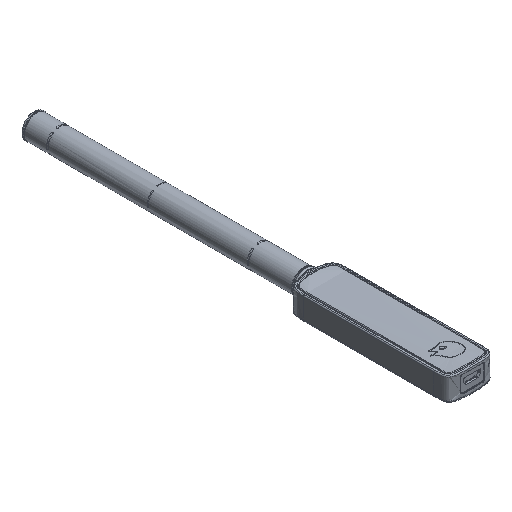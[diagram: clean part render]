
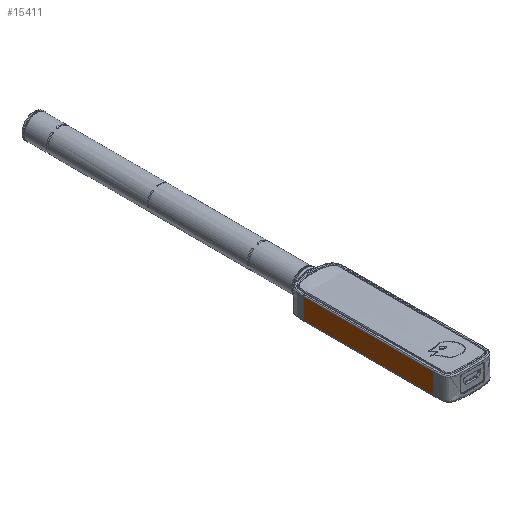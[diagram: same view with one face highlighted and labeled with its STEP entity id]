
A CAD part, isometric view. The second image highlights one B-rep face of the part: STEP entity #15411.
In plain terms, the highlighted planar face has unit normal (-1, 0, 0).
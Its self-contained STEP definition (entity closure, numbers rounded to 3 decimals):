
#17 = CARTESIAN_POINT ( 'NONE',  ( -11.497, 32.479, -1.451 ) ) ;
#238 = EDGE_CURVE ( 'NONE', #3286, #11611, #4386, .T. ) ;
#337 = CARTESIAN_POINT ( 'NONE',  ( -11.497, -32.479, -11.631 ) ) ;
#394 = ORIENTED_EDGE ( 'NONE', *, *, #238, .F. ) ;
#429 = VECTOR ( 'NONE', #8906, 1000. ) ;
#1878 = DIRECTION ( 'NONE',  ( 0., 0., -1. ) ) ;
#2174 = CARTESIAN_POINT ( 'NONE',  ( -11.497, 32.479, 0.01 ) ) ;
#3286 = VERTEX_POINT ( 'NONE', #11559 ) ;
#3549 = ORIENTED_EDGE ( 'NONE', *, *, #15005, .T. ) ;
#3772 = CARTESIAN_POINT ( 'NONE',  ( -11.497, 32.479, -11.631 ) ) ;
#4060 = PLANE ( 'NONE',  #5406 ) ;
#4149 = VERTEX_POINT ( 'NONE', #3772 ) ;
#4386 = LINE ( 'NONE', #7573, #429 ) ;
#4497 = CARTESIAN_POINT ( 'NONE',  ( -11.497, -32.479, -11.631 ) ) ;
#5406 = AXIS2_PLACEMENT_3D ( 'NONE', #7244, #17121, #19744 ) ;
#5921 = DIRECTION ( 'NONE',  ( 0., -1., 0. ) ) ;
#6794 = VERTEX_POINT ( 'NONE', #17 ) ;
#7244 = CARTESIAN_POINT ( 'NONE',  ( -11.497, -32.479, 0.01 ) ) ;
#7287 = EDGE_CURVE ( 'NONE', #3286, #6794, #11857, .T. ) ;
#7573 = CARTESIAN_POINT ( 'NONE',  ( -11.497, -32.479, 0.01 ) ) ;
#8906 = DIRECTION ( 'NONE',  ( 0., 0., -1. ) ) ;
#10476 = VECTOR ( 'NONE', #19431, 1000. ) ;
#11559 = CARTESIAN_POINT ( 'NONE',  ( -11.497, -32.479, -1.451 ) ) ;
#11611 = VERTEX_POINT ( 'NONE', #337 ) ;
#11857 = LINE ( 'NONE', #15019, #10476 ) ;
#11964 = ORIENTED_EDGE ( 'NONE', *, *, #7287, .T. ) ;
#12120 = EDGE_CURVE ( 'NONE', #6794, #4149, #12792, .T. ) ;
#12792 = LINE ( 'NONE', #2174, #15944 ) ;
#13244 = ORIENTED_EDGE ( 'NONE', *, *, #12120, .T. ) ;
#14248 = VECTOR ( 'NONE', #5921, 1000. ) ;
#14481 = EDGE_LOOP ( 'NONE', ( #13244, #3549, #394, #11964 ) ) ;
#15005 = EDGE_CURVE ( 'NONE', #4149, #11611, #17143, .T. ) ;
#15019 = CARTESIAN_POINT ( 'NONE',  ( -11.497, -32.479, -1.451 ) ) ;
#15411 = ADVANCED_FACE ( 'NONE', ( #18131 ), #4060, .T. ) ;
#15944 = VECTOR ( 'NONE', #1878, 1000. ) ;
#17121 = DIRECTION ( 'NONE',  ( -1., 0., 0. ) ) ;
#17143 = LINE ( 'NONE', #4497, #14248 ) ;
#18131 = FACE_OUTER_BOUND ( 'NONE', #14481, .T. ) ;
#19431 = DIRECTION ( 'NONE',  ( 0., 1., 0. ) ) ;
#19744 = DIRECTION ( 'NONE',  ( 0., -1., 0. ) ) ;
